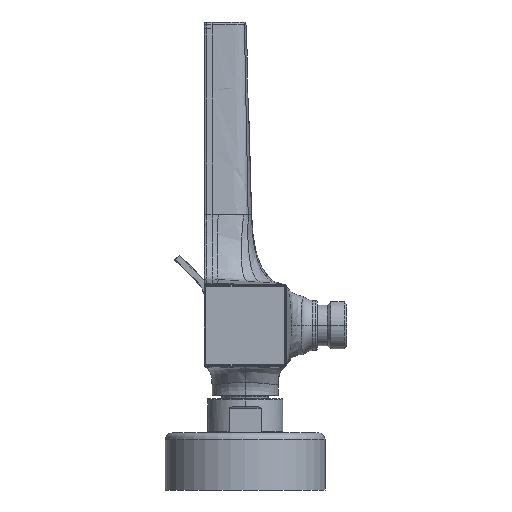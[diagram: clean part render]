
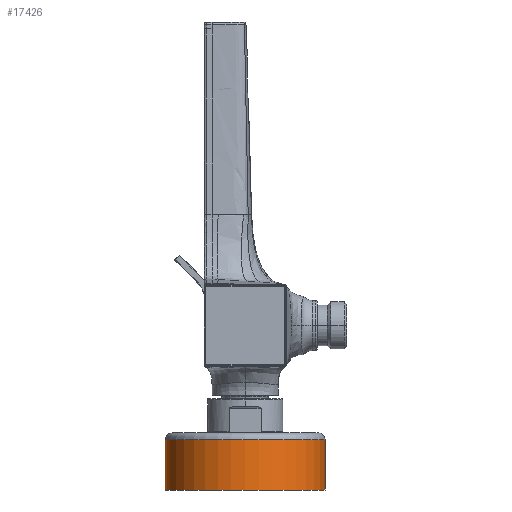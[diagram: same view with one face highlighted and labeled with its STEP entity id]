
A CAD part, left-side view. The second image highlights one B-rep face of the part: STEP entity #17426.
In plain terms, the highlighted cylindrical face has radius 35 mm (diameter 70 mm), a partial arc.
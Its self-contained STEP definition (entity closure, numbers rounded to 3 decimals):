
#4770=DIRECTION('',(0.,0.,-1.));
#4771=VECTOR('',#4770,22.);
#4772=CARTESIAN_POINT('',(-75.,34.5,-50.2));
#4773=LINE('',#4772,#4771);
#4774=DIRECTION('',(0.,0.,-1.));
#4775=VECTOR('',#4774,22.);
#4776=CARTESIAN_POINT('',(-75.,-35.5,-50.2));
#4777=LINE('',#4776,#4775);
#4783=CARTESIAN_POINT('',(-75.,-0.5,-50.2));
#4784=DIRECTION('',(0.,0.,1.));
#4785=DIRECTION('',(0.,1.,0.));
#4786=AXIS2_PLACEMENT_3D('',#4783,#4784,#4785);
#4793=CARTESIAN_POINT('',(-75.,-0.5,-72.2));
#4794=DIRECTION('',(0.,0.,1.));
#4795=DIRECTION('',(0.,1.,0.));
#4796=AXIS2_PLACEMENT_3D('',#4793,#4794,#4795);
#11110=CARTESIAN_POINT('',(-75.,34.5,-50.2));
#11112=VERTEX_POINT('',#11110);
#11113=CARTESIAN_POINT('',(-75.,34.5,-72.2));
#11114=VERTEX_POINT('',#11113);
#11116=CARTESIAN_POINT('',(-75.,-35.5,-50.2));
#11118=VERTEX_POINT('',#11116);
#11119=CARTESIAN_POINT('',(-75.,-35.5,-72.2));
#11120=VERTEX_POINT('',#11119);
#17414=CARTESIAN_POINT('',(-75.,-0.5,-73.45));
#17415=DIRECTION('',(0.,0.,1.));
#17416=DIRECTION('',(0.,-1.,0.));
#17417=AXIS2_PLACEMENT_3D('',#17414,#17415,#17416);
#17418=CYLINDRICAL_SURFACE('',#17417,35.);
#17419=ORIENTED_EDGE('',*,*,#17404,.F.);
#17420=ORIENTED_EDGE('',*,*,#17381,.T.);
#17421=ORIENTED_EDGE('',*,*,#17408,.T.);
#17423=ORIENTED_EDGE('',*,*,#17422,.F.);
#17424=EDGE_LOOP('',(#17419,#17420,#17421,#17423));
#17425=FACE_OUTER_BOUND('',#17424,.F.);
#17426=ADVANCED_FACE('',(#17425),#17418,.T.);
#4787=CIRCLE('',#4786,35.);
#4797=CIRCLE('',#4796,35.);
#17381=EDGE_CURVE('',#11112,#11118,#4787,.T.);
#17404=EDGE_CURVE('',#11112,#11114,#4773,.T.);
#17408=EDGE_CURVE('',#11118,#11120,#4777,.T.);
#17422=EDGE_CURVE('',#11114,#11120,#4797,.T.);
